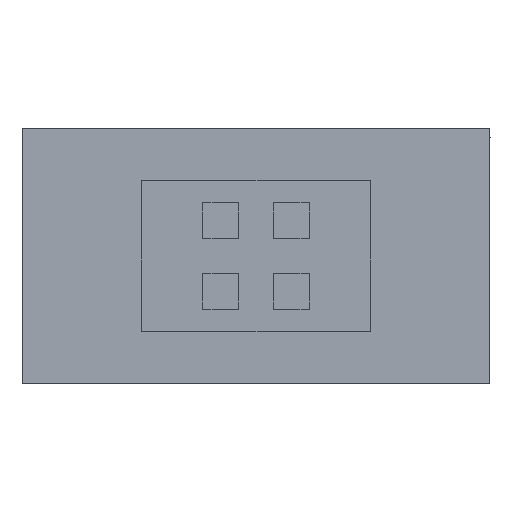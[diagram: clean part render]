
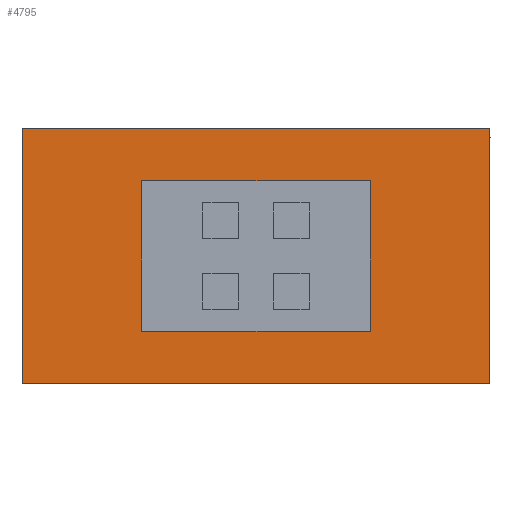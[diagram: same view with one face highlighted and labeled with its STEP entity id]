
A CAD part, top view. The second image highlights one B-rep face of the part: STEP entity #4795.
In plain terms, the highlighted planar face has unit normal (0, 0, 1).
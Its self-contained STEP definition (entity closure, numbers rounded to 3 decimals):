
#212=FACE_BOUND('',#1006,.T.);
#725=FACE_OUTER_BOUND('',#1005,.T.);
#1005=EDGE_LOOP('',(#4288,#4289,#4290,#4291));
#1006=EDGE_LOOP('',(#4292,#4293,#4294,#4295));
#1038=LINE('',#6195,#1449);
#1052=LINE('',#6907,#1463);
#1386=LINE('',#10385,#1797);
#1387=LINE('',#10387,#1798);
#1388=LINE('',#10390,#1799);
#1389=LINE('',#10392,#1800);
#1390=LINE('',#10394,#1801);
#1391=LINE('',#10395,#1802);
#1449=VECTOR('',#5156,10.);
#1463=VECTOR('',#5178,10.);
#1797=VECTOR('',#6070,10.);
#1798=VECTOR('',#6073,10.);
#1799=VECTOR('',#6074,10.);
#1800=VECTOR('',#6075,10.);
#1801=VECTOR('',#6076,10.);
#1802=VECTOR('',#6077,10.);
#1859=VERTEX_POINT('',#6191);
#1861=VERTEX_POINT('',#6194);
#1884=VERTEX_POINT('',#6903);
#1885=VERTEX_POINT('',#6905);
#2263=VERTEX_POINT('',#10388);
#2264=VERTEX_POINT('',#10389);
#2265=VERTEX_POINT('',#10391);
#2266=VERTEX_POINT('',#10393);
#2304=EDGE_CURVE('',#1859,#1861,#1038,.T.);
#2339=EDGE_CURVE('',#1885,#1884,#1052,.T.);
#2948=EDGE_CURVE('',#1884,#1859,#1386,.T.);
#2949=EDGE_CURVE('',#1861,#1885,#1387,.T.);
#2950=EDGE_CURVE('',#2263,#2264,#1388,.T.);
#2951=EDGE_CURVE('',#2265,#2263,#1389,.T.);
#2952=EDGE_CURVE('',#2266,#2265,#1390,.T.);
#2953=EDGE_CURVE('',#2264,#2266,#1391,.T.);
#4288=ORIENTED_EDGE('',*,*,#2948,.F.);
#4289=ORIENTED_EDGE('',*,*,#2339,.F.);
#4290=ORIENTED_EDGE('',*,*,#2949,.F.);
#4291=ORIENTED_EDGE('',*,*,#2304,.F.);
#4292=ORIENTED_EDGE('',*,*,#2950,.F.);
#4293=ORIENTED_EDGE('',*,*,#2951,.F.);
#4294=ORIENTED_EDGE('',*,*,#2952,.F.);
#4295=ORIENTED_EDGE('',*,*,#2953,.F.);
#4520=PLANE('',#5121);
#4795=ADVANCED_FACE('',(#725,#212),#4520,.F.);
#5121=AXIS2_PLACEMENT_3D('',#10386,#6071,#6072);
#5156=DIRECTION('',(-1.,0.,0.));
#5178=DIRECTION('',(1.,0.,0.));
#6070=DIRECTION('',(0.,-1.,0.));
#6071=DIRECTION('center_axis',(0.,0.,
-1.));
#6072=DIRECTION('ref_axis',(-1.,0.,0.));
#6073=DIRECTION('',(0.,1.,0.));
#6074=DIRECTION('',(-1.,0.,0.));
#6075=DIRECTION('',(0.,1.,0.));
#6076=DIRECTION('',(1.,0.,0.));
#6077=DIRECTION('',(0.,-1.,0.));
#6191=CARTESIAN_POINT('',(129.5,5.,32.));
#6194=CARTESIAN_POINT('',(10.5,5.,32.));
#6195=CARTESIAN_POINT('',(130.,5.,32.));
#6903=CARTESIAN_POINT('',(129.5,70.,32.));
#6905=CARTESIAN_POINT('',(10.5,70.,32.));
#6907=CARTESIAN_POINT('',(10.,70.,32.));
#10385=CARTESIAN_POINT('',(129.5,37.5,32.));
#10386=CARTESIAN_POINT('Origin',(70.,37.5,32.));
#10387=CARTESIAN_POINT('',(10.5,37.5,32.));
#10388=CARTESIAN_POINT('',(99.09,56.675,32.));
#10389=CARTESIAN_POINT('',(40.91,56.675,32.));
#10390=CARTESIAN_POINT('',(55.455,56.675,32.));
#10391=CARTESIAN_POINT('',(99.09,18.325,32.));
#10392=CARTESIAN_POINT('',(99.09,47.088,32.));
#10393=CARTESIAN_POINT('',(40.91,18.325,32.));
#10394=CARTESIAN_POINT('',(84.545,18.325,32.));
#10395=CARTESIAN_POINT('',(40.91,27.913,32.));
